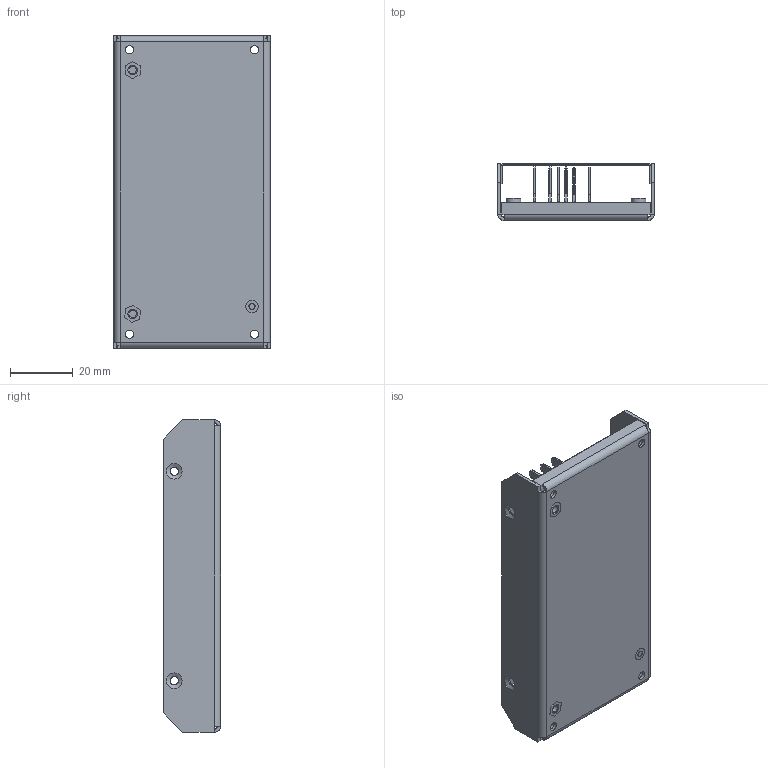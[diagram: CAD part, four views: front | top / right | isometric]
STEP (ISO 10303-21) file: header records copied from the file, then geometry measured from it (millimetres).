
FILE_DESCRIPTION(('STEP AP214'), '1');
FILE_NAME('JETAF5_blade', '', ('UNSPECIFIED'), ('UNSPECIFIED'), 'ASCON STEP Converter 1.3', 'ASCON Math Kernel', '');
FILE_SCHEMA(('AUTOMOTIVE_DESIGN { 1 0 10303 214 3 1 1}'));
Length unit declared in the file: millimetre
Products named in the file (1): JETAF5_blade
Bounding box: 50 x 18.35 x 100 mm (x, y, z)
Volume: 12120.2 mm3; surface area: 35649.1 mm2
Topology: 1 solids, 1 shells, 588 faces, 1527 edges, 990 vertices
Faces by surface type: plane 381, cylinder 178, bspline 18, cone 10, torus 1
Full cylindrical faces by diameter (mm): 0.2 x6, 1.567 x1, 2.459 x2, 2.7 x8, 3.15 x2, 3.3 x4, 3.78 x2, 3.96 x1, 3.99 x4, 4.2 x6, 4.22 x2, 4.76 x8, 5 x4
Entity records: 26332 total; most frequent: CARTESIAN_POINT 7335, ORIENTED_EDGE 2932, DIRECTION 2834, EDGE_CURVE 1466, LINE 1024, VECTOR 1024, VERTEX_POINT 990, AXIS2_PLACEMENT_3D 905
